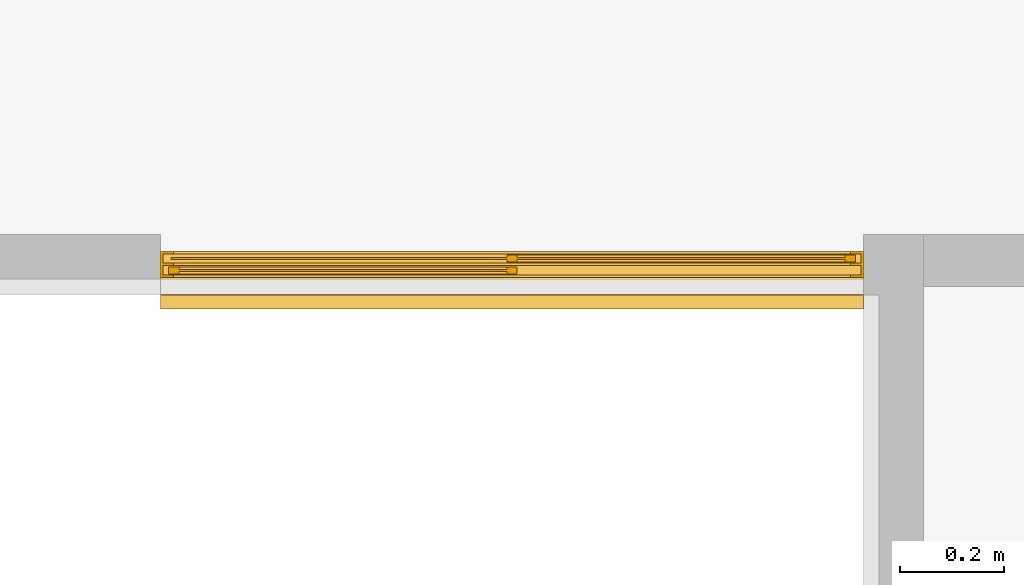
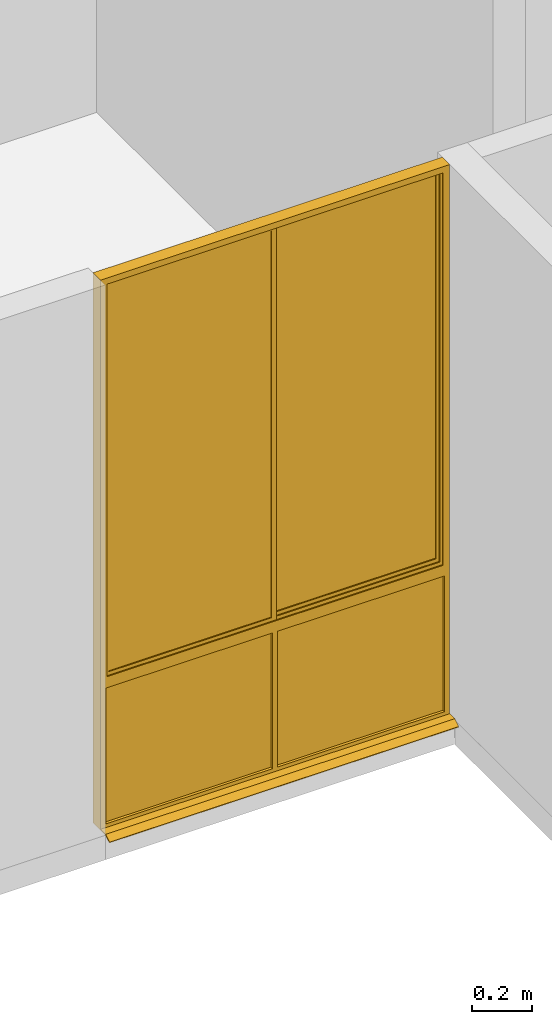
# One storey, part 34 of 48: 1 window.
"""IFC4 building model written with IfcOpenShell, lengths in metres."""

import ifcopenshell
import ifcopenshell.guid

model = None  # the IFC model being written
_history = None  # IfcOwnerHistory: only IFC2X3 demands one
_inside = {}  # id of a spatial element -> (the spatial element, [elements in it])
_under = {}  # id of a project, library or spatial element -> (it, [spatial elements below it])
_declared = {}  # id of a project -> (the project, [libraries it declares])
_typed = {}  # id of a type object -> (the type object, [elements of that type])
_made_of = {}  # id of a material, layer set ... -> (it, [elements and type objects made of it])


def new_model(schema):
    """Start an empty IFC model of exactly this schema.

    Asked for "IFC4X3", IfcOpenShell would pick the latest addendum, in which some entities
    have other attributes; the version numbers below select the first issue.
    IFC2X3 requires an IfcOwnerHistory on every rooted entity: one is made here for all.
    """
    global model, _history
    if schema == "IFC4X3":
        model = ifcopenshell.file(schema_version=(4, 3, 0, 0))
    else:
        model = ifcopenshell.file(schema=schema)
    _inside.clear()
    _under.clear()
    _declared.clear()
    _typed.clear()
    _made_of.clear()
    _history = None
    if model.schema == "IFC2X3":
        org = make("IfcOrganization", Name="unknown")
        user = make(
            "IfcPersonAndOrganization",
            ThePerson=make("IfcPerson", FamilyName="unknown"),
            TheOrganization=org,
        )
        app = make(
            "IfcApplication",
            ApplicationDeveloper=org,
            Version="unknown",
            ApplicationFullName="unknown",
            ApplicationIdentifier="unknown",
        )
        _history = make(
            "IfcOwnerHistory",
            OwningUser=user,
            OwningApplication=app,
            ChangeAction="ADDED",
            CreationDate=0,
        )
    return model


def make(cls, **values):
    """One entity of the class cls with the attributes given. An attribute that is None is left unset."""
    return model.create_entity(
        cls, **{name: value for name, value in values.items() if value is not None}
    )


def entity(cls, *values):
    """Any entity or typed value of the class cls, its attributes in the order of the schema. None: left unset."""
    e = model.create_entity(cls)
    for i, value in enumerate(values):
        if value is not None:
            e[i] = value
    return e


def rooted(cls, **values):
    """An entity with a GlobalId (a new one), such as an element, a storey or a relation."""
    return make(cls, GlobalId=ifcopenshell.guid.new(), OwnerHistory=_history, **values)


def si_unit(unit_type, name, prefix=None):
    """IfcSIUnit, for example si_unit("LENGTHUNIT", "METRE", prefix="MILLI")."""
    return make("IfcSIUnit", UnitType=unit_type, Prefix=prefix, Name=name)


def converted_unit(unit_type, name, factor, base, dimensions=None, offset=None):
    """IfcConversionBasedUnit, such as the inch: factor (a typed value) times the base unit."""
    return make(
        "IfcConversionBasedUnit"
        if offset is None
        else "IfcConversionBasedUnitWithOffset",
        ConversionOffset=offset,
        Dimensions=None
        if dimensions is None
        else entity("IfcDimensionalExponents", *dimensions),
        UnitType=unit_type,
        Name=name,
        ConversionFactor=make(
            "IfcMeasureWithUnit", ValueComponent=factor, UnitComponent=base
        ),
    )


def derived_unit(unit_type, elements):
    """IfcDerivedUnit: a product of units, each with its exponent."""
    return make(
        "IfcDerivedUnit",
        Elements=[
            make("IfcDerivedUnitElement", Unit=unit, Exponent=power)
            for unit, power in elements
        ],
        UnitType=unit_type,
    )


def assignment(units):
    """IfcUnitAssignment: the units of a project."""
    return None if units is None else make("IfcUnitAssignment", Units=units)


def point(xyz):
    """IfcCartesianPoint."""
    return None if xyz is None else make("IfcCartesianPoint", Coordinates=xyz)


def direction(xyz):
    """IfcDirection."""
    return None if xyz is None else make("IfcDirection", DirectionRatios=xyz)


def frame(location, z_axis=None, x_axis=None):
    """IfcAxis2Placement3D, a coordinate frame: its origin and axes. An axis left out is left unset."""
    return make(
        "IfcAxis2Placement3D",
        Location=point(location),
        Axis=direction(z_axis),
        RefDirection=direction(x_axis),
    )


def origin():
    """The frame at (0, 0, 0) with its axes left unset."""
    return frame((0.0, 0.0, 0.0))


def place(relative_to, where):
    """IfcLocalPlacement: puts the frame where relative to a parent placement (None: the world)."""
    return make(
        "IfcLocalPlacement", PlacementRelTo=relative_to, RelativePlacement=where
    )


def context(
    kind, dimensions, precision=None, world=None, true_north=None, identifier=None
):
    """IfcGeometricRepresentationContext, for example the 3D "Model" context."""
    return make(
        "IfcGeometricRepresentationContext",
        ContextIdentifier=identifier,
        ContextType=kind,
        CoordinateSpaceDimension=dimensions,
        Precision=precision,
        WorldCoordinateSystem=world,
        TrueNorth=true_north,
    )


def subcontext(parent, identifier, kind, view, scale=None):
    """IfcGeometricRepresentationSubContext, for example "Body" below "Model"."""
    return make(
        "IfcGeometricRepresentationSubContext",
        ContextIdentifier=identifier,
        ContextType=kind,
        ParentContext=parent,
        TargetScale=scale,
        TargetView=view,
    )


def project(units=None, contexts=None):
    """IfcProject with its units and contexts."""
    return rooted(
        "IfcProject",
        Name="project",
        RepresentationContexts=contexts,
        UnitsInContext=assignment(units),
    )


def spatial(cls, under=None, at=None, **own):
    """A site, building, storey or space (cls), placed at a placement, below another one or the project."""
    s = rooted(cls, ObjectPlacement=at, **own)
    if under is not None:
        _under.setdefault(under.id(), (under, []))[1].append(s)
    return s


def point_list(points):
    """IfcCartesianPointList2D or 3D."""
    cls = (
        "IfcCartesianPointList2D" if len(points[0]) == 2 else "IfcCartesianPointList3D"
    )
    return make(cls, CoordList=points)


def polygons(points, faces, closed=None, point_numbers=None):
    """IfcPolygonalFaceSet: a face is its outer loop, then its inner loops; points numbered from 1."""
    made = []
    for loops in faces:
        if len(loops) == 1:
            made.append(make("IfcIndexedPolygonalFace", CoordIndex=loops[0]))
        else:
            made.append(
                make(
                    "IfcIndexedPolygonalFaceWithVoids",
                    CoordIndex=loops[0],
                    InnerCoordIndices=loops[1:],
                )
            )
    return make(
        "IfcPolygonalFaceSet",
        Coordinates=point_list(points),
        Closed=closed,
        Faces=made,
        PnIndex=point_numbers,
    )


def shape(context_of_items, identifier, shape_type, items):
    """IfcShapeRepresentation: the items that make up one representation, for example the "Body"."""
    return make(
        "IfcShapeRepresentation",
        ContextOfItems=context_of_items,
        RepresentationIdentifier=identifier,
        RepresentationType=shape_type,
        Items=items,
    )


def source(mapping_origin, context_of_items, identifier, shape_type, items):
    """IfcRepresentationMap: a shape defined once, which mapped items show again and again."""
    return make(
        "IfcRepresentationMap",
        MappingOrigin=mapping_origin,
        MappedRepresentation=shape(context_of_items, identifier, shape_type, items),
    )


def transform(
    local_origin,
    x_axis=None,
    y_axis=None,
    z_axis=None,
    scale=None,
    scale2=None,
    scale3=None,
    uniform=True,
):
    """IfcCartesianTransformationOperator3D, or its non-uniform kind. x_axis, y_axis, z_axis: its Axis1, 2, 3."""
    if uniform:
        return make(
            "IfcCartesianTransformationOperator3D",
            Axis1=direction(x_axis),
            Axis2=direction(y_axis),
            LocalOrigin=point(local_origin),
            Scale=scale,
            Axis3=direction(z_axis),
        )
    return make(
        "IfcCartesianTransformationOperator3DnonUniform",
        Axis1=direction(x_axis),
        Axis2=direction(y_axis),
        LocalOrigin=point(local_origin),
        Scale=scale,
        Axis3=direction(z_axis),
        Scale2=scale2,
        Scale3=scale3,
    )


def mapped(mapping_source, mapping_target):
    """IfcMappedItem: shows the shape of a source again, moved by a transform."""
    return make(
        "IfcMappedItem", MappingSource=mapping_source, MappingTarget=mapping_target
    )


def material(Name=None, Category=None):
    """IfcMaterial."""
    return make("IfcMaterial", Name=Name, Category=Category)


def constituent(of_material, Name=None, Category=None, fraction=None):
    """IfcMaterialConstituent: one of the materials an element consists of."""
    return make(
        "IfcMaterialConstituent",
        Name=Name,
        Material=of_material,
        Fraction=fraction,
        Category=Category,
    )


def constituent_set(constituents=None, Name=None):
    """IfcMaterialConstituentSet."""
    return make(
        "IfcMaterialConstituentSet", Name=Name, MaterialConstituents=constituents
    )


def made_of(thing, what):
    """Note that an element or type object is made of a material, layer set ...; save() writes the relation."""
    if what is not None:
        _made_of.setdefault(what.id(), (what, []))[1].append(thing)
    return thing


def type_object(cls, material=None, **own):
    """A type object (cls), such as IfcWallType, which elements share."""
    return made_of(rooted(cls, **own), material)


def type_shapes(of_type, sources):
    """Give a type object the sources (RepresentationMaps) that its elements show as mapped items."""
    of_type.RepresentationMaps = sources


def element(
    cls,
    number,
    at=None,
    inside=None,
    cuts=None,
    type_object=None,
    material=None,
    context=None,
    identifier="Body",
    shape_type=None,
    held_by="IfcProductDefinitionShape",
    body=None,
    shapes=None,
    **own,
):
    """One element of the class cls, such as IfcWall. Its Tag is "e" and its number.

    at: its placement. inside: the storey or other place that contains it. cuts: it is an
    opening in that element (IfcRelVoidsElement). A single representation is given by context,
    identifier, shape_type and body (its items); several are given by shapes. held_by: the class
    of the entity that holds the representations. save() writes the other relations.
    """
    e = rooted(cls, Tag="e%d" % number, ObjectPlacement=at, **own)
    if body is not None:
        shapes = [shape(context, identifier, shape_type, body)]
    if shapes is not None:
        e.Representation = make(held_by, Representations=shapes)
    if inside is not None:
        _inside.setdefault(inside.id(), (inside, []))[1].append(e)
    if cuts is not None:
        rooted(
            "IfcRelVoidsElement", RelatingBuildingElement=cuts, RelatedOpeningElement=e
        )
    if type_object is not None:
        _typed.setdefault(type_object.id(), (type_object, []))[1].append(e)
    return made_of(e, material)


def aggregate(whole, parts):
    """IfcRelAggregates: a whole, such as a stair, and the parts it consists of."""
    return rooted("IfcRelAggregates", RelatingObject=whole, RelatedObjects=parts)


def save(model, path):
    """Write the relations noted so far, then the file.

    IfcRelAggregates (storeys below a building ...), IfcRelContainedInSpatialStructure (elements
    in a storey), IfcRelDefinesByType, IfcRelAssociatesMaterial and IfcRelDeclares: one each for
    every whole, place, type object, material and project.
    """
    for whole, parts in _under.values():
        aggregate(whole, parts)
    for where, things in _inside.values():
        rooted(
            "IfcRelContainedInSpatialStructure",
            RelatedElements=things,
            RelatingStructure=where,
        )
    for kind, things in _typed.values():
        rooted("IfcRelDefinesByType", RelatedObjects=things, RelatingType=kind)
    for what, things in _made_of.values():
        rooted("IfcRelAssociatesMaterial", RelatedObjects=things, RelatingMaterial=what)
    for by, libraries in _declared.values():
        rooted("IfcRelDeclares", RelatingContext=by, RelatedDefinitions=libraries)
    model.write(path)


model = new_model("IFC4")

# Units and contexts
model_context = context("Model", 3, precision=1e-05, world=origin(), true_north=direction((6.123031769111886e-17, 1.0)))
body_context = subcontext(model_context, "Body", "Model", "MODEL_VIEW")
ifc_project = project(units=[si_unit("LENGTHUNIT", "METRE"), si_unit("AREAUNIT", "SQUARE_METRE"), si_unit("VOLUMEUNIT", "CUBIC_METRE"), converted_unit("PLANEANGLEUNIT", "DEGREE", entity("IfcRatioMeasure", 0.017453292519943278), si_unit("PLANEANGLEUNIT", "RADIAN"), dimensions=[0, 0, 0, 0, 0, 0, 0]), si_unit("MASSUNIT", "GRAM", prefix="KILO"), derived_unit("MASSDENSITYUNIT", [(si_unit("MASSUNIT", "GRAM", prefix="KILO"), 1), (si_unit("LENGTHUNIT", "METRE"), -3)]), derived_unit("IONCONCENTRATIONUNIT", [(si_unit("MASSUNIT", "GRAM", prefix="KILO"), 1), (si_unit("LENGTHUNIT", "METRE"), -3)]), derived_unit("MOMENTOFINERTIAUNIT", [(si_unit("LENGTHUNIT", "METRE"), 4)]), si_unit("TIMEUNIT", "SECOND"), si_unit("FREQUENCYUNIT", "HERTZ"), si_unit("THERMODYNAMICTEMPERATUREUNIT", "DEGREE_CELSIUS"), derived_unit("THERMALTRANSMITTANCEUNIT", [(si_unit("MASSUNIT", "GRAM", prefix="KILO"), 1), (si_unit("THERMODYNAMICTEMPERATUREUNIT", "KELVIN"), -1), (si_unit("TIMEUNIT", "SECOND"), -3)]), derived_unit("THERMALCONDUCTANCEUNIT", [(si_unit("MASSUNIT", "GRAM", prefix="KILO"), 1), (si_unit("THERMODYNAMICTEMPERATUREUNIT", "KELVIN"), -1), (si_unit("TIMEUNIT", "SECOND"), -3), (si_unit("LENGTHUNIT", "METRE"), 1)]), derived_unit("VOLUMETRICFLOWRATEUNIT", [(si_unit("LENGTHUNIT", "METRE"), 3), (si_unit("TIMEUNIT", "SECOND"), -1)]), derived_unit("MASSFLOWRATEUNIT", [(si_unit("MASSUNIT", "GRAM", prefix="KILO"), 1), (si_unit("TIMEUNIT", "SECOND"), -1)]), derived_unit("ROTATIONALFREQUENCYUNIT", [(si_unit("TIMEUNIT", "SECOND"), -1)]), si_unit("ELECTRICCURRENTUNIT", "AMPERE"), si_unit("ELECTRICVOLTAGEUNIT", "VOLT"), si_unit("POWERUNIT", "WATT"), si_unit("FORCEUNIT", "NEWTON", prefix="KILO"), si_unit("ILLUMINANCEUNIT", "LUX"), si_unit("LUMINOUSFLUXUNIT", "LUMEN"), si_unit("LUMINOUSINTENSITYUNIT", "CANDELA"), derived_unit("USERDEFINED", [(si_unit("MASSUNIT", "GRAM", prefix="KILO"), -1), (si_unit("LENGTHUNIT", "METRE"), -2), (si_unit("TIMEUNIT", "SECOND"), 3), (si_unit("LUMINOUSFLUXUNIT", "LUMEN"), 1)]), derived_unit("USERDEFINED", [(si_unit("MASSUNIT", "GRAM", prefix="KILO"), 1), (si_unit("TIMEUNIT", "SECOND"), -3), (si_unit("LENGTHUNIT", "METRE"), 3), (si_unit("ELECTRICCURRENTUNIT", "AMPERE"), -2)]), derived_unit("SOUNDPOWERUNIT", [(si_unit("MASSUNIT", "GRAM", prefix="KILO"), 1), (si_unit("TIMEUNIT", "SECOND"), -3), (si_unit("LENGTHUNIT", "METRE"), 2)]), derived_unit("SOUNDPRESSUREUNIT", [(si_unit("MASSUNIT", "GRAM", prefix="KILO"), 1), (si_unit("LENGTHUNIT", "METRE"), -1), (si_unit("TIMEUNIT", "SECOND"), -2)]), derived_unit("LINEARVELOCITYUNIT", [(si_unit("LENGTHUNIT", "METRE"), 1), (si_unit("TIMEUNIT", "SECOND"), -1)]), si_unit("PRESSUREUNIT", "PASCAL"), derived_unit("USERDEFINED", [(si_unit("MASSUNIT", "GRAM", prefix="KILO"), 1), (si_unit("LENGTHUNIT", "METRE"), -2), (si_unit("TIMEUNIT", "SECOND"), -2)]), derived_unit("LINEARFORCEUNIT", [(si_unit("MASSUNIT", "GRAM", prefix="KILO"), 1), (si_unit("TIMEUNIT", "SECOND"), -2)]), derived_unit("PLANARFORCEUNIT", [(si_unit("MASSUNIT", "GRAM", prefix="KILO"), 1), (si_unit("LENGTHUNIT", "METRE"), -1), (si_unit("TIMEUNIT", "SECOND"), -2)]), derived_unit("SPECIFICHEATCAPACITYUNIT", [(si_unit("THERMODYNAMICTEMPERATUREUNIT", "KELVIN"), -1), (si_unit("LENGTHUNIT", "METRE"), 2), (si_unit("TIMEUNIT", "SECOND"), -2)]), derived_unit("HEATINGVALUEUNIT", [(si_unit("LENGTHUNIT", "METRE"), 2), (si_unit("TIMEUNIT", "SECOND"), -2)]), derived_unit("VAPORPERMEABILITYUNIT", [(si_unit("LENGTHUNIT", "METRE"), -1), (si_unit("TIMEUNIT", "SECOND"), 1)]), derived_unit("DYNAMICVISCOSITYUNIT", [(si_unit("MASSUNIT", "GRAM", prefix="KILO"), 1), (si_unit("TIMEUNIT", "SECOND"), -1), (si_unit("LENGTHUNIT", "METRE"), -1)]), derived_unit("THERMALEXPANSIONCOEFFICIENTUNIT", [(si_unit("THERMODYNAMICTEMPERATUREUNIT", "KELVIN"), -1)]), derived_unit("MODULUSOFELASTICITYUNIT", [(si_unit("MASSUNIT", "GRAM", prefix="KILO"), 1), (si_unit("LENGTHUNIT", "METRE"), -1), (si_unit("TIMEUNIT", "SECOND"), -2)]), derived_unit("ISOTHERMALMOISTURECAPACITYUNIT", [(si_unit("LENGTHUNIT", "METRE"), 3), (si_unit("MASSUNIT", "GRAM", prefix="KILO"), -1)]), derived_unit("MOISTUREDIFFUSIVITYUNIT", [(si_unit("TIMEUNIT", "SECOND"), -1), (si_unit("LENGTHUNIT", "METRE"), 2)])], contexts=[model_context])

# Site, building, storey
site_placement = place(None, origin())
site = spatial("IfcSite", under=ifc_project, at=site_placement, Name="Default", CompositionType="ELEMENT")
building_placement = place(site_placement, origin())
building = spatial("IfcBuilding", under=site, at=building_placement, CompositionType="ELEMENT")
storey_placement = place(building_placement, frame((0.0, 0.0, 4.700000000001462)))
storey = spatial("IfcBuildingStorey", under=building, at=storey_placement, Name="Nivel 3", CompositionType="ELEMENT", Elevation=4.700000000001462)

# Window
ifc_material_1 = material(Name="Vidrio", Category="Materials")
ifc_constituent_1 = constituent(ifc_material_1, Name="Vidrio", Category="Materials")
ifc_material_2 = material(Name="Aluminio", Category="Materials")
ifc_constituent_2 = constituent(ifc_material_2, Name="Aluminio", Category="Materials")
ifc_material_3 = material(Name="<Unnamed>")
ifc_constituent_3 = constituent(ifc_material_3, Name="<Unnamed>")
ifc_constituent_set_1 = constituent_set(constituents=[ifc_constituent_1, ifc_constituent_2, ifc_constituent_3])
ifc_constituent_4 = constituent(ifc_material_1, Name="Vidrio", Category="Materials")
ifc_constituent_5 = constituent(ifc_material_2, Name="Aluminio", Category="Materials")
ifc_constituent_6 = constituent(ifc_material_3, Name="<Unnamed>")
ifc_constituent_set_2 = constituent_set(constituents=[ifc_constituent_4, ifc_constituent_5, ifc_constituent_6])
window_type = type_object("IfcWindowType", Name="B2020 - Ventana corrediza - Aluminio + Vidrio:B2020 - 1.35m x 2.25m - Ventana corrediza 2C - Aluminio + Vidrio", PartitioningType="NOTDEFINED", PredefinedType="WINDOW", material=ifc_constituent_set_2)
shared_shape = source(origin(), body_context, "Body", "Tessellation", [
    polygons([(1.3299999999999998, 0.044249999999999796, 2.2300000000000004), (0.6749999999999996, 0.04424999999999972, 2.2300000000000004), (0.6749999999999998, 0.04424999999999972, 0.6174999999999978), (1.3299999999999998, 0.044249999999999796, 0.6174999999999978), (1.3299999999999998, 0.04824999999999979, 2.2300000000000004), (0.6749999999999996, 0.04824999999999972, 2.2300000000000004), (0.6749999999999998, 0.04824999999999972, 0.6174999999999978), (1.3299999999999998, 0.04824999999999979, 0.6174999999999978)], [[[1, 2, 3, 4]], [[2, 1, 5, 6]], [[3, 2, 6, 7]], [[1, 4, 8, 5]], [[5, 8, 7, 6]], [[4, 3, 7, 8]]], closed=True),
    polygons([(0.020000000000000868, 0.04424999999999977, 2.2300000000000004), (0.020000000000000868, 0.04424999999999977, 0.6174999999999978), (0.6800000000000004, 0.044249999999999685, 0.6174999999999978), (0.6800000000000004, 0.044249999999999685, 2.2300000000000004), (0.020000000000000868, 0.048249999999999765, 2.2300000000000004), (0.020000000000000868, 0.048249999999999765, 0.6174999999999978), (0.6800000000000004, 0.04824999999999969, 0.6174999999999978), (0.6800000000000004, 0.04824999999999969, 2.2300000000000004)], [[[1, 2, 3, 4]], [[2, 1, 5, 6]], [[4, 3, 7, 8]], [[1, 4, 8, 5]], [[5, 8, 7, 6]], [[3, 2, 6, 7]]], closed=True),
    polygons([(0.6800000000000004, 0.048249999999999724, 0.6174999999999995), (0.6800000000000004, 0.044249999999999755, 0.6174999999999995), (0.6800000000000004, 0.044249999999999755, 2.230000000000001), (0.6800000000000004, 0.048249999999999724, 2.230000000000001), (0.665, 0.044249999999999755, 2.2150000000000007), (0.035000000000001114, 0.04424999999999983, 2.2150000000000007), (0.035000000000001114, 0.04424999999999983, 0.6324999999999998), (0.665, 0.044249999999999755, 0.6324999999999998), (0.020000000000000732, 0.04424999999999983, 0.6174999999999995), (0.020000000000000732, 0.04424999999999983, 2.230000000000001), (0.020000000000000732, 0.0482499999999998, 2.230000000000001), (0.020000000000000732, 0.0482499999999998, 0.6174999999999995), (0.665, 0.048249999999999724, 0.6324999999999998), (0.035000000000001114, 0.04824999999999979, 0.6324999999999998), (0.035000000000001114, 0.04824999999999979, 2.2150000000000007), (0.665, 0.048249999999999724, 2.2150000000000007), (0.665, 0.05299999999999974, 0.6324999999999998), (0.665, 0.05299999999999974, 2.2150000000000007), (0.035000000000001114, 0.05299999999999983, 2.2150000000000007), (0.035000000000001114, 0.05299999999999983, 0.6324999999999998), (0.6850000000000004, 0.05299999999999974, 0.6124999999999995), (0.015000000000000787, 0.05299999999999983, 0.6124999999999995), (0.015000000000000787, 0.05299999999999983, 2.2350000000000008), (0.6850000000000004, 0.05299999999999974, 2.2350000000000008), (0.6850000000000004, 0.03949999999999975, 0.6124999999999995), (0.6850000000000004, 0.03949999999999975, 2.2350000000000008), (0.015000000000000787, 0.03949999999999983, 2.2350000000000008), (0.015000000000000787, 0.03949999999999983, 0.6124999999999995), (0.665, 0.03949999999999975, 0.6324999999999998), (0.035000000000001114, 0.03949999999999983, 0.6324999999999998), (0.035000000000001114, 0.03949999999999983, 2.2150000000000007), (0.665, 0.03949999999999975, 2.2150000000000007)], [[[1, 2, 3, 4]], [[2, 9, 10, 3], [5, 6, 7, 8]], [[4, 3, 10, 11]], [[4, 11, 12, 1], [13, 14, 15, 16]], [[17, 13, 16, 18]], [[18, 16, 15, 19]], [[21, 22, 23, 24], [18, 19, 20, 17]], [[25, 21, 24, 26]], [[26, 24, 23, 27]], [[26, 27, 28, 25], [29, 30, 31, 32]], [[8, 29, 32, 5]], [[5, 32, 31, 6]], [[11, 10, 9, 12]], [[19, 15, 14, 20]], [[27, 23, 22, 28]], [[6, 31, 30, 7]], [[12, 9, 2, 1]], [[20, 14, 13, 17]], [[28, 22, 21, 25]], [[7, 30, 29, 8]]], closed=True),
    polygons([(0.6699999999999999, 0.06674999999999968, 2.229999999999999), (0.6699999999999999, 0.06674999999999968, 0.6174999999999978), (1.3299999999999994, 0.06674999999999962, 0.6174999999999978), (1.3299999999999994, 0.06674999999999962, 2.229999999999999), (0.6699999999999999, 0.07074999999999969, 2.229999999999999), (0.6699999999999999, 0.07074999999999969, 0.6174999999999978), (1.3299999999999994, 0.0707499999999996, 0.6174999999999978), (1.3299999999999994, 0.0707499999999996, 2.229999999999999)], [[[1, 2, 3, 4]], [[2, 1, 5, 6]], [[4, 3, 7, 8]], [[1, 4, 8, 5]], [[5, 8, 7, 6]], [[3, 2, 6, 7]]], closed=True),
    polygons([(1.3299999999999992, 0.07074999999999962, 0.6175), (1.3299999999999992, 0.06674999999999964, 0.6175), (1.3299999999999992, 0.06674999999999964, 2.2299999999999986), (1.3299999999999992, 0.07074999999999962, 2.2299999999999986), (1.3149999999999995, 0.06674999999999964, 2.214999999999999), (0.6850000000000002, 0.06674999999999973, 2.214999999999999), (0.6850000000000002, 0.06674999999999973, 0.6324999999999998), (1.3149999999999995, 0.06674999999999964, 0.6324999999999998), (0.6700000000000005, 0.06674999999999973, 0.6175), (0.6700000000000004, 0.06674999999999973, 2.2299999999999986), (0.6700000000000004, 0.0707499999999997, 2.2299999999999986), (0.6700000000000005, 0.0707499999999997, 0.6175), (1.3149999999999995, 0.07074999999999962, 0.6324999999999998), (0.6850000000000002, 0.0707499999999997, 0.6324999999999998), (0.6850000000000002, 0.0707499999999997, 2.214999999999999), (1.3149999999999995, 0.07074999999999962, 2.214999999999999), (1.3149999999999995, 0.07549999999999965, 0.6324999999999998), (1.3149999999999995, 0.07549999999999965, 2.214999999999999), (0.6850000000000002, 0.07549999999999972, 2.214999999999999), (0.6850000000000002, 0.07549999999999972, 0.6324999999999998), (1.3349999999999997, 0.07549999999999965, 0.6124999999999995), (0.665, 0.07549999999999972, 0.6124999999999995), (0.6649999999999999, 0.07549999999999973, 2.2349999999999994), (1.3349999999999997, 0.07549999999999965, 2.2349999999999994), (1.3349999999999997, 0.06199999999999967, 0.6124999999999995), (1.3349999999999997, 0.06199999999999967, 2.2349999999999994), (0.6649999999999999, 0.06199999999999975, 2.2349999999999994), (0.665, 0.06199999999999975, 0.6124999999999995), (1.3149999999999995, 0.06199999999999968, 0.6324999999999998), (0.6850000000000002, 0.06199999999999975, 0.6324999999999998), (0.6850000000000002, 0.06199999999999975, 2.214999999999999), (1.3149999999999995, 0.06199999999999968, 2.214999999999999)], [[[1, 2, 3, 4]], [[2, 9, 10, 3], [5, 6, 7, 8]], [[4, 3, 10, 11]], [[4, 11, 12, 1], [13, 14, 15, 16]], [[17, 13, 16, 18]], [[18, 16, 15, 19]], [[21, 22, 23, 24], [18, 19, 20, 17]], [[25, 21, 24, 26]], [[26, 24, 23, 27]], [[26, 27, 28, 25], [29, 30, 31, 32]], [[8, 29, 32, 5]], [[5, 32, 31, 6]], [[11, 10, 9, 12]], [[19, 15, 14, 20]], [[27, 23, 22, 28]], [[6, 31, 30, 7]], [[12, 9, 2, 1]], [[20, 14, 13, 17]], [[28, 22, 21, 25]], [[7, 30, 29, 8]]], closed=True),
    polygons([(1.3249999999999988, 0.037499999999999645, 2.224999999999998), (1.3249999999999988, 0.03249999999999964, 2.2249999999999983), (0.025000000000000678, 0.03249999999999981, 2.2249999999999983), (0.025000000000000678, 0.037499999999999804, 2.2249999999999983), (0.025000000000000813, 0.03249999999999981, 0.6200000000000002), (0.02500000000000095, 0.037499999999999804, 0.6200000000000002), (1.3249999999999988, 0.03249999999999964, 0.6200000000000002), (6.767919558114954e-16, 0.03249999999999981, 0.595), (1.349999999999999, 0.03249999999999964, 0.595), (1.349999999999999, 0.03249999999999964, 2.2499999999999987), (4.060751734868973e-16, 0.03249999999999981, 2.2499999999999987), (0.005000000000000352, 0.037499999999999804, 2.2449999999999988), (1.344999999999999, 0.037499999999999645, 2.2449999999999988), (1.344999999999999, 0.037499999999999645, 0.5999999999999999), (0.0050000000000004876, 0.037499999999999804, 0.5999999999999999), (1.3249999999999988, 0.037499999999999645, 0.6200000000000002), (1.344999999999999, 0.054999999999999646, 2.2449999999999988), (0.005000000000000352, 0.05499999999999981, 2.2449999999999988), (0.005000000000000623, 0.05499999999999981, 0.5999999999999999), (0.025000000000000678, 0.054999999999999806, 2.2249999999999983), (1.3249999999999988, 0.05499999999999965, 2.224999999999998), (1.3249999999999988, 0.05499999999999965, 0.6200000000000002), (0.025000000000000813, 0.054999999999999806, 0.6200000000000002), (1.344999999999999, 0.054999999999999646, 0.5999999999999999), (1.3249999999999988, 0.05999999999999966, 2.224999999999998), (0.025000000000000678, 0.05999999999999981, 2.2249999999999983), (0.02500000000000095, 0.05999999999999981, 0.6200000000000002), (0.005000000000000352, 0.05999999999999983, 2.2449999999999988), (1.344999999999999, 0.05999999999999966, 2.2449999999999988), (1.344999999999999, 0.05999999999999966, 0.5999999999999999), (0.0050000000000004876, 0.05999999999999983, 0.5999999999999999), (1.3249999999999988, 0.05999999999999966, 0.6200000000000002), (1.344999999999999, 0.07749999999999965, 2.2449999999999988), (0.005000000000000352, 0.07749999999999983, 2.2449999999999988), (0.005000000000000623, 0.07749999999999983, 0.5999999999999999), (0.025000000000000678, 0.07749999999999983, 2.2249999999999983), (1.3249999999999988, 0.07749999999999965, 2.224999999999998), (1.3249999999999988, 0.07749999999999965, 0.6200000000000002), (0.025000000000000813, 0.07749999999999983, 0.6200000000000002), (1.344999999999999, 0.07749999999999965, 0.5999999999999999), (1.3249999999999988, 0.08249999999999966, 2.224999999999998), (0.025000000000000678, 0.08249999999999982, 2.2249999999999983), (0.02500000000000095, 0.08249999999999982, 0.6200000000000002), (4.060751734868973e-16, 0.08249999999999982, 2.2499999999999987), (1.349999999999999, 0.08249999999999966, 2.2499999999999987), (1.349999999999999, 0.08249999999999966, 0.595), (5.414335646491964e-16, 0.08249999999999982, 0.595), (1.3249999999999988, 0.08249999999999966, 0.6200000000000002)], [[[1, 2, 3, 4]], [[4, 3, 5, 6]], [[8, 9, 10, 11], [3, 2, 7, 5]], [[12, 13, 14, 15], [6, 16, 1, 4]], [[17, 13, 12, 18]], [[18, 12, 15, 19]], [[19, 24, 17, 18], [20, 21, 22, 23]], [[25, 21, 20, 26]], [[26, 20, 23, 27]], [[28, 29, 30, 31], [27, 32, 25, 26]], [[33, 29, 28, 34]], [[34, 28, 31, 35]], [[35, 40, 33, 34], [36, 37, 38, 39]], [[41, 37, 36, 42]], [[42, 36, 39, 43]], [[44, 45, 46, 47], [43, 48, 41, 42]], [[10, 45, 44, 11]], [[11, 44, 47, 8]], [[16, 7, 2, 1]], [[24, 14, 13, 17]], [[32, 22, 21, 25]], [[40, 30, 29, 33]], [[48, 38, 37, 41]], [[9, 46, 45, 10]], [[6, 5, 7, 16]], [[19, 15, 14, 24]], [[27, 23, 22, 32]], [[35, 31, 30, 40]], [[43, 39, 38, 48]], [[8, 47, 46, 9]]], closed=True),
    polygons([(0.01999999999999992, 0.08250000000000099, 0.5749999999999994), (0.020000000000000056, 0.03249999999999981, 0.5749999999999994), (0.020000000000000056, 0.0324999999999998, 0.020000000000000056), (0.01999999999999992, 0.08250000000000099, 0.020000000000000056), (0.6649999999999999, 0.03250000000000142, 0.01999999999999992), (0.6649999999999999, 0.08250000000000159, 0.019999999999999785), (2.707167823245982e-16, 0.03250000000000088, 0.5949999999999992), (2.707167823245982e-16, 0.08249999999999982, 0.5949999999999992), (2.707167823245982e-16, 0.08249999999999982, 2.707167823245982e-16), (2.707167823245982e-16, 0.03250000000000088, 2.707167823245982e-16), (1.3499999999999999, 0.08249999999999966, 2.707167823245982e-16), (1.3499999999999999, 0.03250000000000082, 2.707167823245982e-16), (1.3299999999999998, 0.08250000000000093, 0.020000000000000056), (1.33, 0.03249999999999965, 0.020000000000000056), (1.33, 0.03249999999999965, 0.5749999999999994), (1.3299999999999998, 0.08250000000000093, 0.5749999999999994), (1.3499999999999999, 0.08249999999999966, 0.5949999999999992), (1.3499999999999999, 0.03250000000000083, 0.5949999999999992), (0.6849999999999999, 0.03250000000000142, 0.5749999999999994), (0.6849999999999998, 0.08250000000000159, 0.5749999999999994), (0.6849999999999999, 0.08250000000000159, 0.019999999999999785), (0.6849999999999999, 0.03250000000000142, 0.01999999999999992), (0.6649999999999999, 0.03250000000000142, 0.5749999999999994), (0.6649999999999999, 0.08250000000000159, 0.5749999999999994)], [[[1, 2, 3, 4]], [[4, 3, 5, 6]], [[7, 8, 9, 10]], [[10, 9, 11, 12]], [[13, 14, 15, 16]], [[12, 11, 17, 18]], [[16, 15, 19, 20]], [[8, 7, 18, 17]], [[21, 20, 19, 22]], [[7, 10, 12, 18], [22, 19, 15, 14], [23, 5, 3, 2]], [[24, 6, 5, 23]], [[9, 8, 17, 11], [6, 24, 1, 4], [20, 21, 13, 16]], [[2, 1, 24, 23]], [[14, 13, 21, 22]]], closed=True),
    polygons([(0.6850000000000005, 0.07213901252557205, 0.019999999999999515), (1.3300000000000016, 0.07213901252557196, 0.019999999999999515), (1.3300000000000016, 0.06813901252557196, 0.019999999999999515), (0.6850000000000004, 0.06813901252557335, 0.019999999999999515), (0.6850000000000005, 0.07213901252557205, 0.5849999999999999), (1.3300000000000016, 0.07213901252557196, 0.5849999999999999), (1.3300000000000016, 0.06813901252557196, 0.5849999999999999), (0.6850000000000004, 0.06813901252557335, 0.5849999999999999)], [[[1, 2, 3, 4]], [[5, 6, 2, 1]], [[6, 7, 3, 2]], [[7, 8, 4, 3]], [[8, 5, 1, 4]], [[5, 8, 7, 6]]], closed=True),
    polygons([(0.6649999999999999, 0.07213901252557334, 0.019999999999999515), (0.6649999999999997, 0.06813901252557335, 0.019999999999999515), (0.01999999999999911, 0.06813901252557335, 0.019999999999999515), (0.019999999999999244, 0.07213901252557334, 0.019999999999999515), (0.6649999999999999, 0.07213901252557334, 0.5849999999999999), (0.6649999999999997, 0.06813901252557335, 0.5849999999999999), (0.01999999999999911, 0.06813901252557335, 0.5849999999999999), (0.019999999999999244, 0.07213901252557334, 0.5849999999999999)], [[[1, 2, 3, 4]], [[5, 6, 2, 1]], [[6, 7, 3, 2]], [[7, 8, 4, 3]], [[8, 5, 1, 4]], [[5, 8, 7, 6]]], closed=True),
    polygons([(-9.475087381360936e-16, 0.11499999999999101, -4.060751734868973e-16), (-9.475087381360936e-16, 0.08249999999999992, -4.060751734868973e-16), (-9.475087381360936e-16, 0.08249999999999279, 0.0049999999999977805), (-9.475087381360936e-16, 0.11633974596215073, 0.0049999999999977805), (-8.121503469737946e-16, 0.14348076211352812, -0.010669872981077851), (-8.121503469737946e-16, 0.14098076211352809, -0.015000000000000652), (1.3499999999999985, 0.11499999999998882, -4.060751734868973e-16), (1.3499999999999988, 0.1409807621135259, -0.015000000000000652), (1.3499999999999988, 0.14348076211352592, -0.010669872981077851), (1.3499999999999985, 0.11633974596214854, 0.0049999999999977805), (1.3499999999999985, 0.08249999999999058, 0.0049999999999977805), (1.3499999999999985, 0.08249999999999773, -4.060751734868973e-16)], [[[1, 2, 3, 4, 5, 6]], [[7, 8, 9, 10, 11, 12]], [[2, 1, 7, 12]], [[3, 2, 12, 11]], [[4, 3, 11, 10]], [[5, 4, 10, 9]], [[6, 5, 9, 8]], [[1, 6, 8, 7]]], closed=True),
])
type_shapes(window_type, [shared_shape])
window_placement = place(storey_placement, frame((1.9174999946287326, -10.04000002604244, 0.0), z_axis=(0.0, 0.0, 1.0), x_axis=(-1.0, 0.0, 0.0)))
element("IfcWindow", 1, at=window_placement, inside=storey, type_object=window_type, material=ifc_constituent_set_1, Name="B2020 - Ventana corrediza - Aluminio + Vidrio:B2020 - 1.35m x 2.25m - Ventana corrediza 2C - Aluminio + Vidrio", ObjectType="B2020 - Ventana corrediza - Aluminio + Vidrio:B2020 - 1.35m x 2.25m - Ventana corrediza 2C - Aluminio + Vidrio", OverallHeight=2.265, OverallWidth=1.3500000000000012, PartitioningType="NOTDEFINED", PredefinedType="WINDOW", context=body_context, shape_type="MappedRepresentation", body=[
    mapped(shared_shape, transform((0.0, 0.0, 0.0), scale=1.0)),
])

save(model, "model.ifc")
